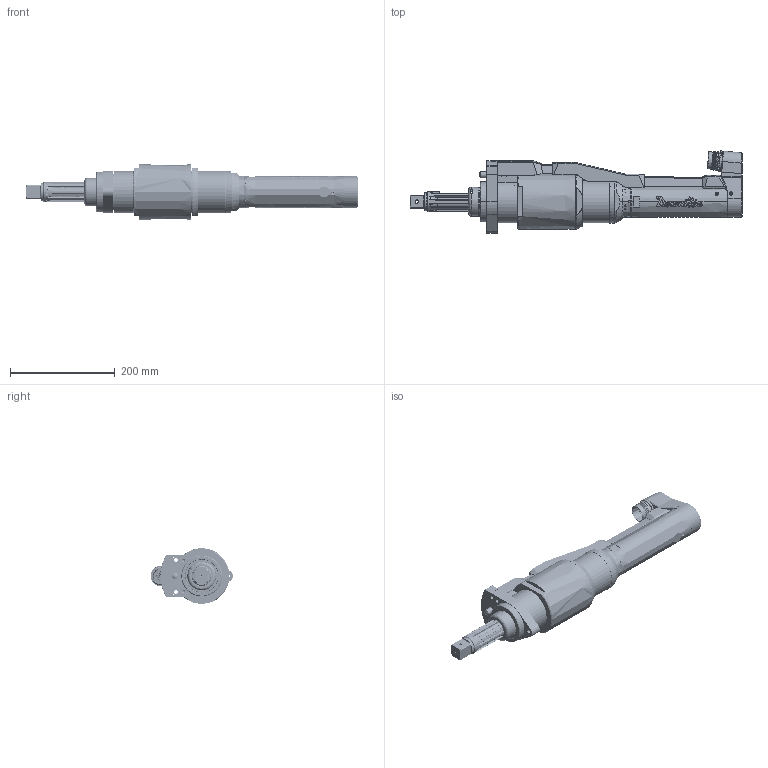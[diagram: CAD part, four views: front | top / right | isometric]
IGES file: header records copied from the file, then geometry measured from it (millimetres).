
Start section:  PTC IGES file: 6151662170_dim.igs
Global section: file name: 6151662170_dim.igs; native system: Creo Parametric by PTC Inc.; preprocessor: 2022414; author: S00000450; organization: Unknown; date: 20230901.123652; units: millimetre
Bounding box: 633.14 x 156.88 x 106 mm (x, y, z)
Surface area: 503634.1 mm2 (no closed solid volume)
Topology: 0 solids, 0 shells, 3092 faces, 23016 edges, 22991 vertices
Faces by surface type: revolution 1341, bspline 1318, extrusion 433
